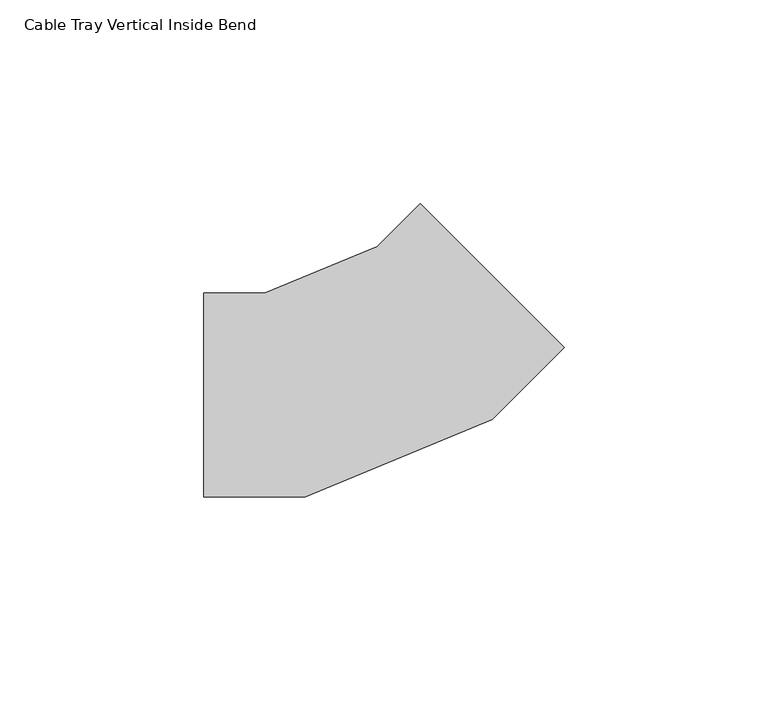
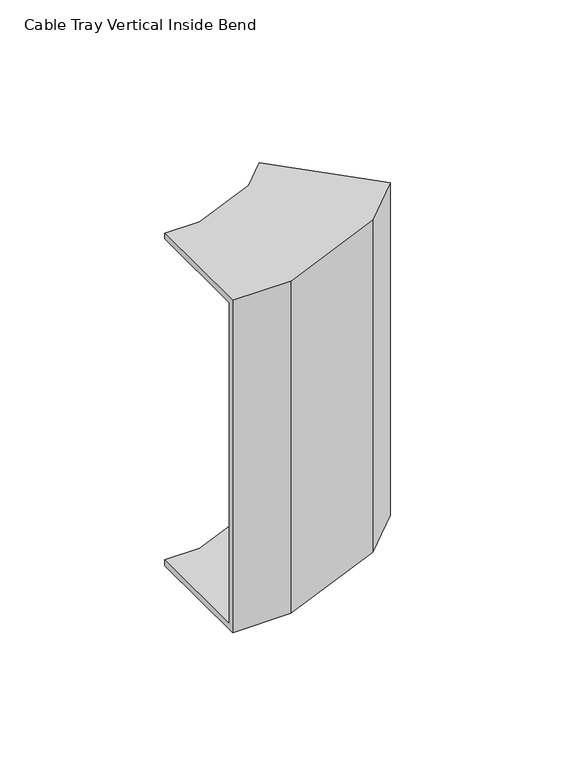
"""IFC4 building model written with IfcOpenShell, lengths in millimetres: cable carrier fitting geometry, Cable Tray Vertical Inside Bend : ELEC_ELV_CT_N2402."""

from ifc_helpers import new_model, si_unit, origin, place, context, project, spatial, faceted_brep, source, transform, mapped, element, save


def cable_tray_vertical_inside_bend_8fcda462(model_context):
    return source(origin(), model_context, "Body", "Brep", [
        faceted_brep([(-41.4213562, 25.0, 75.0), (-41.4213562, 25.0, 72.46), (-41.4213562, -22.46, 72.46), (-41.4213562, -22.46, -72.46), (-41.4213562, 25.0, -72.46), (-41.4213562, 25.0, -75.0), (-41.4213562, -25.0, -75.0), (-41.4213562, -25.0, 75.0), (11.6116524, 46.9669914, 75.0), (46.9669914, 11.6116524, 75.0), (46.9669914, 11.6116524, -75.0), (11.6116524, 46.9669914, -75.0), (11.6116524, 46.9669914, -72.46), (45.1709402, 13.4077036, -72.46), (45.1709402, 13.4077036, 72.46), (11.6116524, 46.9669914, 72.46), (-26.5029287, 25.0, 75.0), (-26.5029287, 25.0, 72.46), (1.0627311, 36.4180701, 72.46), (27.9466615, -3.8165751, 72.46), (-17.0625477, -22.46, 72.46), (-17.0625477, -22.46, -72.46), (27.9466615, -3.8165751, -72.46), (1.0627311, 36.4180701, -72.46), (-26.5029287, 25.0, -72.46), (-26.5029287, 25.0, -75.0), (1.0627311, 36.4180701, -75.0), (29.3854559, -5.9698831, -75.0), (-16.5573103, -25.0, -75.0), (-16.5573103, -25.0, 75.0), (29.3854559, -5.9698831, 75.0), (1.0627311, 36.4180701, 75.0)], [[[0, 1, 2, 3, 4, 5, 6, 7]], [[8, 9, 10, 11, 12, 13, 14, 15]], [[1, 0, 16, 17]], [[2, 1, 17, 18, 15, 14, 19, 20]], [[3, 2, 20, 21]], [[4, 3, 21, 22, 13, 12, 23, 24]], [[5, 4, 24, 25]], [[6, 5, 25, 26, 11, 10, 27, 28]], [[7, 6, 28, 29]], [[0, 7, 29, 30, 9, 8, 31, 16]], [[17, 16, 31, 18]], [[21, 20, 19, 22]], [[25, 24, 23, 26]], [[29, 28, 27, 30]], [[18, 31, 8, 15]], [[22, 19, 14, 13]], [[26, 23, 12, 11]], [[30, 27, 10, 9]]]),
    ])


if __name__ == "__main__":
    model = new_model("IFC4")
    model_context = context("Model", 3, world=origin())
    ifc_project = project(units=[si_unit("LENGTHUNIT", "METRE", prefix="MILLI")], contexts=[model_context])
    site = spatial("IfcSite", under=ifc_project)
    building = spatial("IfcBuilding", under=site)
    placement = place(None, origin())
    cable_tray_vertical_inside_bend_shape = cable_tray_vertical_inside_bend_8fcda462(model_context)
    element("IfcCableCarrierFitting", 1, ObjectType="Cable Tray Vertical Inside Bend : ELEC_ELV_CT_N2402", at=placement, inside=building, context=model_context, shape_type="MappedRepresentation", body=[
        mapped(cable_tray_vertical_inside_bend_shape, transform((0.0, 0.0, 0.0), x_axis=(1.0, 0.0, 0.0), y_axis=(0.0, 1.0, 0.0), z_axis=(0.0, 0.0, 1.0))),
    ])
    save(model, "model.ifc")
